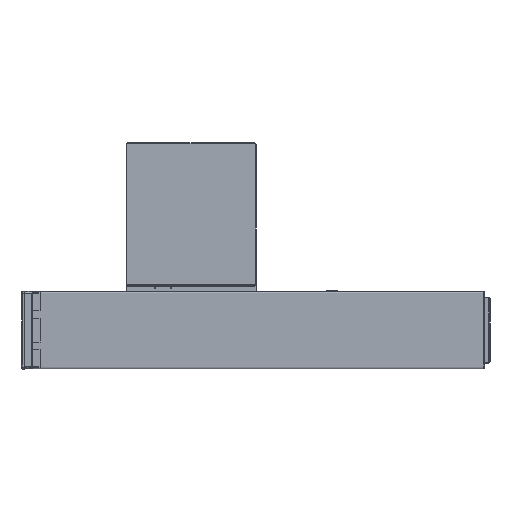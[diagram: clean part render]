
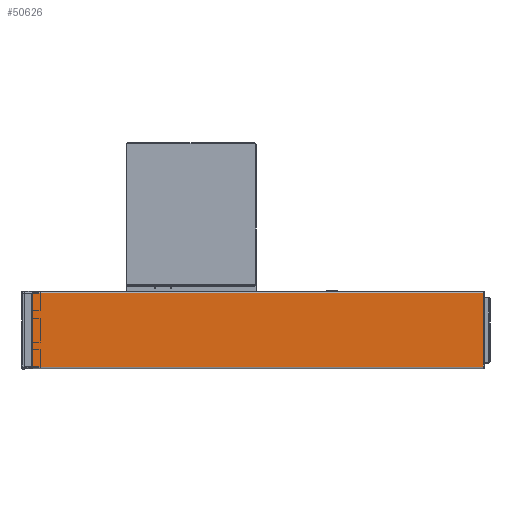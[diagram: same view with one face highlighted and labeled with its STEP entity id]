
A CAD part, left-side view. The second image highlights one B-rep face of the part: STEP entity #50626.
In plain terms, the highlighted planar face has unit normal (-1, 0, 0).
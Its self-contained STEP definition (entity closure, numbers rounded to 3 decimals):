
#4561 = VERTEX_POINT ( 'NONE', #53437 ) ;
#4663 = VERTEX_POINT ( 'NONE', #61721 ) ;
#8385 = FACE_OUTER_BOUND ( 'NONE', #22388, .T. ) ;
#11888 = LINE ( 'NONE', #29351, #43695 ) ;
#12516 = EDGE_CURVE ( 'NONE', #53442, #4663, #54853, .T. ) ;
#12803 = DIRECTION ( 'NONE',  ( 0., -1., 0. ) ) ;
#12825 = VERTEX_POINT ( 'NONE', #64075 ) ;
#13074 = CARTESIAN_POINT ( 'NONE',  ( 0., 3.001, -74. ) ) ;
#14067 = PLANE ( 'NONE',  #63896 ) ;
#17137 = EDGE_CURVE ( 'NONE', #12825, #28910, #43531, .T. ) ;
#18371 = ORIENTED_EDGE ( 'NONE', *, *, #34130, .F. ) ;
#19347 = CARTESIAN_POINT ( 'NONE',  ( 0., 870., -74. ) ) ;
#22388 = EDGE_LOOP ( 'NONE', ( #18371, #23302, #54186, #70155, #79767, #70175, #60112, #59082 ) ) ;
#23302 = ORIENTED_EDGE ( 'NONE', *, *, #17137, .F. ) ;
#23385 = CARTESIAN_POINT ( 'NONE',  ( 0., 3., -71. ) ) ;
#23753 = CARTESIAN_POINT ( 'NONE',  ( 0., 870., 70.999 ) ) ;
#23839 = CARTESIAN_POINT ( 'NONE',  ( 0., 1.5, -71. ) ) ;
#23862 = DIRECTION ( 'NONE',  ( 0., 0., 1. ) ) ;
#28298 = VECTOR ( 'NONE', #12803, 1000. ) ;
#28608 = VECTOR ( 'NONE', #61990, 1000. ) ;
#28910 = VERTEX_POINT ( 'NONE', #67406 ) ;
#29351 = CARTESIAN_POINT ( 'NONE',  ( 0., 3., 73.585 ) ) ;
#29891 = DIRECTION ( 'NONE',  ( 0., 1., 0. ) ) ;
#30120 = VERTEX_POINT ( 'NONE', #36547 ) ;
#30306 = LINE ( 'NONE', #77856, #61198 ) ;
#31452 = DIRECTION ( 'NONE',  ( 0., 0., -1. ) ) ;
#33546 = EDGE_CURVE ( 'NONE', #4663, #30120, #30306, .T. ) ;
#34130 = EDGE_CURVE ( 'NONE', #28910, #53442, #43787, .T. ) ;
#35381 = EDGE_CURVE ( 'NONE', #78153, #46021, #50379, .T. ) ;
#36547 = CARTESIAN_POINT ( 'NONE',  ( 0., 870., 71. ) ) ;
#36918 = VECTOR ( 'NONE', #37756, 1000. ) ;
#37493 = CARTESIAN_POINT ( 'NONE',  ( 0., 870., -70.999 ) ) ;
#37756 = DIRECTION ( 'NONE',  ( 0., 0., -1. ) ) ;
#38283 = DIRECTION ( 'NONE',  ( 0., 0., 1. ) ) ;
#43508 = LINE ( 'NONE', #69271, #28298 ) ;
#43531 = LINE ( 'NONE', #37493, #28608 ) ;
#43695 = VECTOR ( 'NONE', #47479, 1000. ) ;
#43787 = LINE ( 'NONE', #13074, #36918 ) ;
#46021 = VERTEX_POINT ( 'NONE', #49095 ) ;
#47479 = DIRECTION ( 'NONE',  ( 0., 0., -1. ) ) ;
#48329 = DIRECTION ( 'NONE',  ( 0., 1., 0. ) ) ;
#49095 = CARTESIAN_POINT ( 'NONE',  ( 0., 3., 71. ) ) ;
#50379 = LINE ( 'NONE', #68847, #65147 ) ;
#50626 = ADVANCED_FACE ( 'NONE', ( #8385 ), #14067, .F. ) ;
#52598 = EDGE_CURVE ( 'NONE', #4561, #78153, #53579, .T. ) ;
#53437 = CARTESIAN_POINT ( 'NONE',  ( 0., 3., 70.999 ) ) ;
#53442 = VERTEX_POINT ( 'NONE', #23385 ) ;
#53579 = LINE ( 'NONE', #23753, #70641 ) ;
#54186 = ORIENTED_EDGE ( 'NONE', *, *, #65225, .F. ) ;
#54853 = LINE ( 'NONE', #23839, #56397 ) ;
#56397 = VECTOR ( 'NONE', #29891, 1000. ) ;
#57616 = DIRECTION ( 'NONE',  ( 1., 0., 0. ) ) ;
#59082 = ORIENTED_EDGE ( 'NONE', *, *, #12516, .F. ) ;
#60112 = ORIENTED_EDGE ( 'NONE', *, *, #33546, .F. ) ;
#61198 = VECTOR ( 'NONE', #23862, 1000. ) ;
#61721 = CARTESIAN_POINT ( 'NONE',  ( 0., 870., -71. ) ) ;
#61990 = DIRECTION ( 'NONE',  ( 0., 1., 0. ) ) ;
#63896 = AXIS2_PLACEMENT_3D ( 'NONE', #19347, #57616, #31452 ) ;
#64075 = CARTESIAN_POINT ( 'NONE',  ( 0., 3., -70.999 ) ) ;
#65035 = EDGE_CURVE ( 'NONE', #30120, #46021, #43508, .T. ) ;
#65147 = VECTOR ( 'NONE', #38283, 1000. ) ;
#65225 = EDGE_CURVE ( 'NONE', #4561, #12825, #11888, .T. ) ;
#67406 = CARTESIAN_POINT ( 'NONE',  ( 0., 3., -70.999 ) ) ;
#68847 = CARTESIAN_POINT ( 'NONE',  ( 0., 3., -74. ) ) ;
#69271 = CARTESIAN_POINT ( 'NONE',  ( 0., 870., 71. ) ) ;
#70155 = ORIENTED_EDGE ( 'NONE', *, *, #52598, .T. ) ;
#70175 = ORIENTED_EDGE ( 'NONE', *, *, #65035, .F. ) ;
#70641 = VECTOR ( 'NONE', #48329, 1000. ) ;
#73599 = CARTESIAN_POINT ( 'NONE',  ( 0., 3., 70.999 ) ) ;
#77856 = CARTESIAN_POINT ( 'NONE',  ( 0., 870., -74. ) ) ;
#78153 = VERTEX_POINT ( 'NONE', #73599 ) ;
#79767 = ORIENTED_EDGE ( 'NONE', *, *, #35381, .T. ) ;
